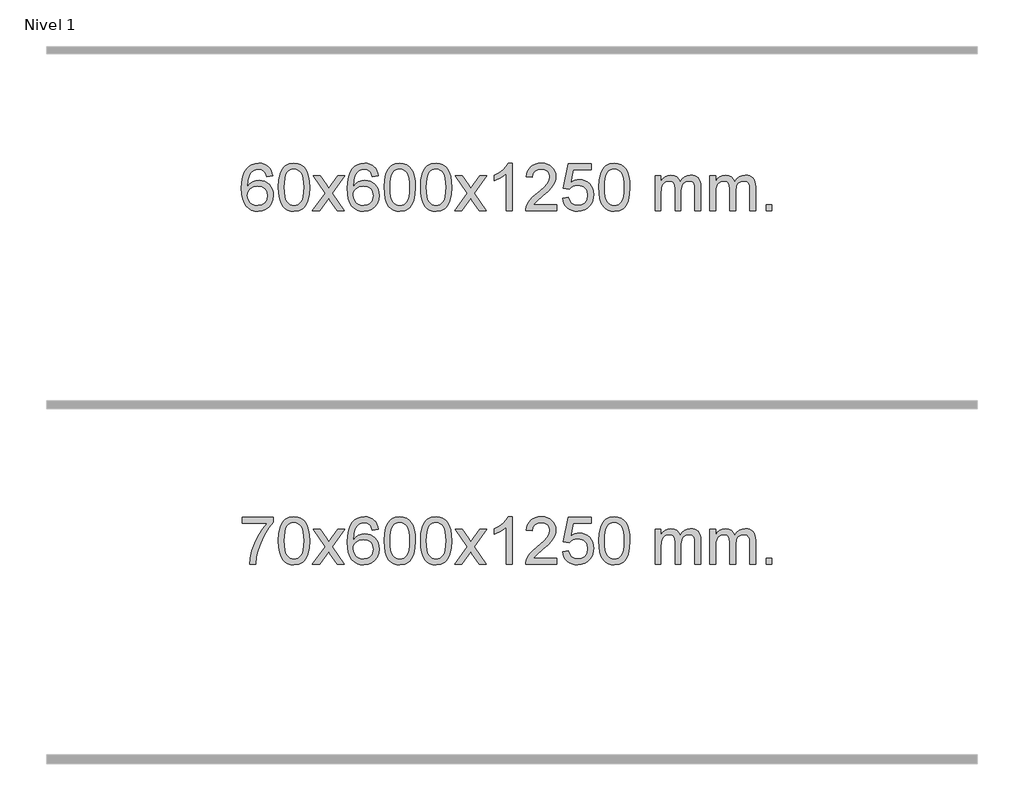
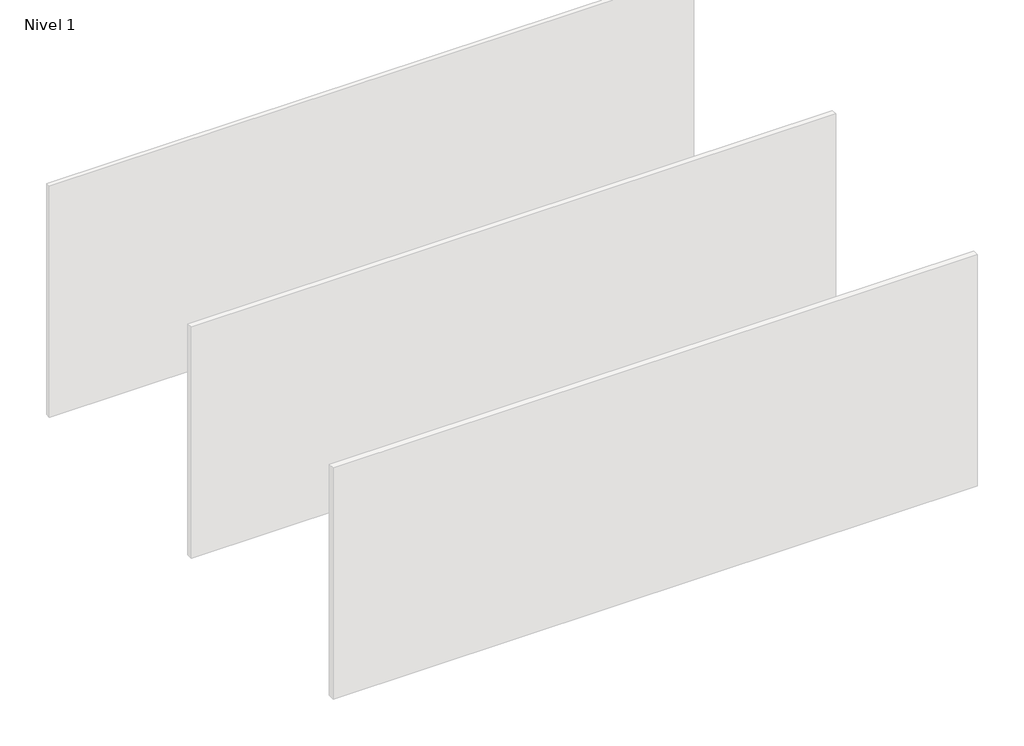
# One storey, part 3 of 4: 2 proxies.
"""IFC4 building model written with IfcOpenShell, lengths in millimetres."""

from ifc_helpers import new_model, si_unit, origin, origin_with_axes, place, context, project, spatial, polyline, outline, extrude, element, save

model = new_model("IFC4")

# Units and contexts
model_context = context("Model", 3, world=origin())
ifc_project = project(units=[si_unit("LENGTHUNIT", "METRE", prefix="MILLI")], contexts=[model_context])

# Site, building, storey
site = spatial("IfcSite", under=ifc_project)
building = spatial("IfcBuilding", under=site)
storey = spatial("IfcBuildingStorey", under=building, Name="Nivel 1", Elevation=0.0)

# Proxies
placement = place(None, origin())
element("IfcBuildingElementProxy", 1, Name="Texto de modelo 1", ObjectType="Texto de modelo 1", at=placement, inside=storey, context=model_context, shape_type="SweptSolid", body=[
    extrude(outline(polyline([(-4613.4242712, -3100.4890419), (-4663.6524262, -3106.7675613), (-4671.7458301, -3081.874213), (-4682.6841881, -3064.8780648), (-4705.4683463, -3049.2062918), (-4733.0104451, -3043.9823675), (-4756.358689, -3047.0235253), (-4778.3335069, -3056.1469988), (-4797.2058532, -3075.3627017), (-4812.6201088, -3101.8134171), (-4823.0311693, -3139.227016), (-4826.8939302, -3191.3313693), (-4806.7462596, -3167.8237098), (-4782.600938, -3151.2567573), (-4755.806866, -3141.434308), (-4727.7129443, -3138.1601582), (-4703.5798854, -3140.398107), (-4681.310762, -3147.1119534), (-4660.905574, -3158.3016975), (-4642.3643214, -3173.9673391), (-4626.9561972, -3193.1769106), (-4615.9503942, -3214.9984443), (-4609.3469124, -3239.4319401), (-4607.1457518, -3266.4773982), (-4611.2905556, -3302.4439945), (-4623.724967, -3335.786366), (-4643.4189165, -3364.0642287), (-4669.3423344, -3384.8372987), (-4700.3179984, -3397.602804), (-4735.1686861, -3401.8579724), (-4765.1112148, -3399.0375437), (-4792.1536071, -3390.5762579), (-4816.2958631, -3376.4741147), (-4837.5379826, -3356.7311143), (-4854.8560275, -3330.5133908), (-4867.2260596, -3296.9870783), (-4874.6480789, -3256.1521768), (-4877.1220853, -3208.0086864), (-4874.3752331, -3154.0342663), (-4866.1346764, -3107.9693092), (-4852.4004152, -3069.8138149), (-4833.1724496, -3039.5677835), (-4812.3319346, -3019.5243462), (-4788.1682189, -3005.2076052), (-4760.6813025, -2996.6175606), (-4729.8711854, -2993.7542124), (-4706.7375392, -2995.5261773), (-4685.7989223, -3000.8420722), (-4667.0553347, -3009.7018969), (-4650.5067763, -3022.1056515), (-4636.6008369, -3037.6364031), (-4625.7851062, -3055.8772186), (-4618.0595843, -3076.8280983), (-4613.4242712, -3100.4890419)]), holes=[polyline([(-4826.8939302, -3265.6925832), (-4823.9876625, -3287.9494439), (-4815.2688592, -3309.2007605), (-4801.7308018, -3327.472233), (-4784.3667716, -3340.7895612), (-4763.4097606, -3348.9197533), (-4739.0927607, -3351.6298173), (-4705.9465929, -3346.0134855), (-4692.0314565, -3338.9930708), (-4679.888285, -3329.1644901), (-4670.0382445, -3316.9262824), (-4663.0025014, -3302.6769865), (-4657.3739068, -3268.1451299), (-4662.928925, -3234.9989621), (-4669.8726976, -3221.3781312), (-4679.5939794, -3209.725469), (-4691.7739391, -3200.3904634), (-4706.0937457, -3193.7226022), (-4741.1528999, -3188.3883133), (-4774.2500167, -3193.7226022), (-4801.9270055, -3209.725469), (-4812.8500351, -3221.2248471), (-4820.652199, -3234.3858254), (-4825.3334974, -3249.2084042), (-4826.8939302, -3265.6925832)])]), origin_with_axes(), (0.0, 0.0, 1.0), 10.0),
    extrude(outline(polyline([(-4563.1961161, -3197.9041943), (-4559.5050334, -3133.5861588), (-4548.4317853, -3082.2911459), (-4530.0867365, -3043.2343407), (-4518.2286735, -3028.0009605), (-4504.5802515, -3015.6309284), (-4489.0954852, -3006.0598651), (-4471.7283893, -2999.2233914), (-4431.347209, -2993.7542124), (-4400.3960705, -2996.991574), (-4372.6822935, -3006.7036586), (-4349.5057278, -3022.5103217), (-4332.1662231, -3044.0314184), (-4319.0696241, -3071.0830078), (-4308.6217754, -3103.4811488), (-4301.7791703, -3144.6226186), (-4299.4983019, -3197.9041943), (-4303.1525964, -3261.8543477), (-4314.1154799, -3313.0267333), (-4332.3501641, -3352.1203266), (-4344.1806359, -3367.3996922), (-4357.8198609, -3379.8341036), (-4373.3230213, -3389.4695462), (-4390.7452995, -3396.3520052), (-4431.347209, -3401.8579724), (-4459.011935, -3399.4667394), (-4483.5374014, -3392.2930405), (-4504.923608, -3380.3368757), (-4523.170555, -3363.5982449), (-4540.681738, -3333.3399508), (-4553.1897258, -3295.6381776), (-4560.6945185, -3250.4929255), (-4563.1961161, -3197.9041943)]), holes=[polyline([(-4512.967961, -3197.8060924), (-4511.496433, -3241.4706195), (-4507.0818491, -3276.8148822), (-4499.7242092, -3303.8388804), (-4489.4235133, -3322.5426142), (-4476.9645764, -3335.2682656), (-4463.1322134, -3344.3580165), (-4447.9264243, -3349.8118671), (-4431.347209, -3351.6298173), (-4414.7679938, -3349.8057357), (-4399.5622046, -3344.3334911), (-4385.7298416, -3335.2130833), (-4373.2709047, -3322.4445124), (-4362.9702088, -3303.7101217), (-4355.6125689, -3276.6922549), (-4351.197985, -3241.3909118), (-4349.726457, -3197.8060924), (-4351.1489341, -3155.2973278), (-4355.4163652, -3120.5753989), (-4362.5287504, -3093.6403055), (-4372.4860898, -3074.4920476), (-4384.7365602, -3061.1440625), (-4398.7283388, -3051.6097875), (-4414.4614254, -3045.8892225), (-4431.9358202, -3043.9823675), (-4448.4291963, -3045.6623619), (-4463.3774681, -3050.7023452), (-4476.7806354, -3059.1023175), (-4488.6386984, -3070.8622786), (-4499.2827508, -3091.708925), (-4506.8856454, -3119.8151094), (-4511.4473821, -3155.1808319), (-4512.967961, -3197.8060924)])]), origin_with_axes(), (0.0, 0.0, 1.0), 10.0),
    extrude(outline(polyline([(-4274.3842244, -3395.579453), (-4167.0607837, -3247.2494325), (-4268.105705, -3100.4890419), (-4207.6749559, -3100.4890419), (-4158.9183288, -3171.122385), (-4136.1586961, -3204.4770192), (-4116.4402211, -3177.2047007), (-4060.9145653, -3100.4890419), (-4000.4838163, -3100.4890419), (-4106.6300346, -3247.2494325), (-4004.4078909, -3395.579453), (-4064.8386399, -3395.579453), (-4126.3485095, -3306.4048574), (-4137.6302241, -3290.1199477), (-4213.9534753, -3395.579453), (-4274.3842244, -3395.579453)])), origin_with_axes(), (0.0, 0.0, 1.0), 10.0),
    extrude(outline(polyline([(-3715.5959992, -3100.4890419), (-3765.8241543, -3106.7675613), (-3773.9175582, -3081.874213), (-3784.8559162, -3064.8780648), (-3807.6400744, -3049.2062918), (-3835.1821731, -3043.9823675), (-3858.5304171, -3047.0235253), (-3880.5052349, -3056.1469988), (-3899.3775813, -3075.3627017), (-3914.7918368, -3101.8134171), (-3925.2028973, -3139.227016), (-3929.0656583, -3191.3313693), (-3908.9179877, -3167.8237098), (-3884.772666, -3151.2567573), (-3857.9785941, -3141.434308), (-3829.8846724, -3138.1601582), (-3805.7516135, -3140.398107), (-3783.48249, -3147.1119534), (-3763.077302, -3158.3016975), (-3744.5360495, -3173.9673391), (-3729.1279252, -3193.1769106), (-3718.1221222, -3214.9984443), (-3711.5186404, -3239.4319401), (-3709.3174798, -3266.4773982), (-3713.4622836, -3302.4439945), (-3725.8966951, -3335.786366), (-3745.5906445, -3364.0642287), (-3771.5140625, -3384.8372987), (-3802.4897265, -3397.602804), (-3837.3404141, -3401.8579724), (-3867.2829429, -3399.0375437), (-3894.3253352, -3390.5762579), (-3918.4675911, -3376.4741147), (-3939.7097107, -3356.7311143), (-3957.0277556, -3330.5133908), (-3969.3977877, -3296.9870783), (-3976.8198069, -3256.1521768), (-3979.2938133, -3208.0086864), (-3976.5469611, -3154.0342663), (-3968.3064044, -3107.9693092), (-3954.5721433, -3069.8138149), (-3935.3441776, -3039.5677835), (-3914.5036626, -3019.5243462), (-3890.3399469, -3005.2076052), (-3862.8530305, -2996.6175606), (-3832.0429134, -2993.7542124), (-3808.9092673, -2995.5261773), (-3787.9706504, -3000.8420722), (-3769.2270627, -3009.7018969), (-3752.6785043, -3022.1056515), (-3738.7725649, -3037.6364031), (-3727.9568342, -3055.8772186), (-3720.2313123, -3076.8280983), (-3715.5959992, -3100.4890419)]), holes=[polyline([(-3929.0656583, -3265.6925832), (-3926.1593905, -3287.9494439), (-3917.4405872, -3309.2007605), (-3903.9025298, -3327.472233), (-3886.5384996, -3340.7895612), (-3865.5814886, -3348.9197533), (-3841.2644887, -3351.6298173), (-3808.118321, -3346.0134855), (-3794.2031845, -3338.9930708), (-3782.060013, -3329.1644901), (-3772.2099726, -3316.9262824), (-3765.1742294, -3302.6769865), (-3759.5456349, -3268.1451299), (-3765.100653, -3234.9989621), (-3772.0444257, -3221.3781312), (-3781.7657074, -3209.725469), (-3793.9456671, -3200.3904634), (-3808.2654738, -3193.7226022), (-3843.3246279, -3188.3883133), (-3876.4217448, -3193.7226022), (-3904.0987335, -3209.725469), (-3915.0217631, -3221.2248471), (-3922.8239271, -3234.3858254), (-3927.5052255, -3249.2084042), (-3929.0656583, -3265.6925832)])]), origin_with_axes(), (0.0, 0.0, 1.0), 10.0),
    extrude(outline(polyline([(-3665.3678441, -3197.9041943), (-3661.6767614, -3133.5861588), (-3650.6035134, -3082.2911459), (-3632.2584646, -3043.2343407), (-3620.4004016, -3028.0009605), (-3606.7519796, -3015.6309284), (-3591.2672132, -3006.0598651), (-3573.9001174, -2999.2233914), (-3533.518937, -2993.7542124), (-3502.5677985, -2996.991574), (-3474.8540216, -3006.7036586), (-3451.6774559, -3022.5103217), (-3434.3379511, -3044.0314184), (-3421.2413521, -3071.0830078), (-3410.7935035, -3103.4811488), (-3403.9508983, -3144.6226186), (-3401.67003, -3197.9041943), (-3405.3243245, -3261.8543477), (-3416.2872079, -3313.0267333), (-3434.5218921, -3352.1203266), (-3446.352364, -3367.3996922), (-3459.9915889, -3379.8341036), (-3475.4947494, -3389.4695462), (-3492.9170275, -3396.3520052), (-3533.518937, -3401.8579724), (-3561.1836631, -3399.4667394), (-3585.7091294, -3392.2930405), (-3607.0953361, -3380.3368757), (-3625.342283, -3363.5982449), (-3642.853466, -3333.3399508), (-3655.3614539, -3295.6381776), (-3662.8662466, -3250.4929255), (-3665.3678441, -3197.9041943)]), holes=[polyline([(-3615.139689, -3197.8060924), (-3613.6681611, -3241.4706195), (-3609.2535771, -3276.8148822), (-3601.8959372, -3303.8388804), (-3591.5952414, -3322.5426142), (-3579.1363044, -3335.2682656), (-3565.3039414, -3344.3580165), (-3550.0981523, -3349.8118671), (-3533.518937, -3351.6298173), (-3516.9397218, -3349.8057357), (-3501.7339327, -3344.3334911), (-3487.9015696, -3335.2130833), (-3475.4426327, -3322.4445124), (-3465.1419369, -3303.7101217), (-3457.784297, -3276.6922549), (-3453.369713, -3241.3909118), (-3451.8981851, -3197.8060924), (-3453.3206621, -3155.2973278), (-3457.5880932, -3120.5753989), (-3464.7004785, -3093.6403055), (-3474.6578178, -3074.4920476), (-3486.9082883, -3061.1440625), (-3500.9000668, -3051.6097875), (-3516.6331535, -3045.8892225), (-3534.1075482, -3043.9823675), (-3550.6009244, -3045.6623619), (-3565.5491961, -3050.7023452), (-3578.9523635, -3059.1023175), (-3590.8104264, -3070.8622786), (-3601.4544788, -3091.708925), (-3609.0573734, -3119.8151094), (-3613.6191101, -3155.1808319), (-3615.139689, -3197.8060924)])]), origin_with_axes(), (0.0, 0.0, 1.0), 10.0),
    extrude(outline(polyline([(-3357.7203943, -3197.9041943), (-3354.0293116, -3133.5861588), (-3342.9560635, -3082.2911459), (-3324.6110147, -3043.2343407), (-3312.7529517, -3028.0009605), (-3299.1045297, -3015.6309284), (-3283.6197634, -3006.0598651), (-3266.2526676, -2999.2233914), (-3225.8714872, -2993.7542124), (-3194.9203487, -2996.991574), (-3167.2065717, -3006.7036586), (-3144.030006, -3022.5103217), (-3126.6905013, -3044.0314184), (-3113.5939023, -3071.0830078), (-3103.1460536, -3103.4811488), (-3096.3034485, -3144.6226186), (-3094.0225801, -3197.9041943), (-3097.6768746, -3261.8543477), (-3108.6397581, -3313.0267333), (-3126.8744423, -3352.1203266), (-3138.7049141, -3367.3996922), (-3152.3441391, -3379.8341036), (-3167.8472995, -3389.4695462), (-3185.2695777, -3396.3520052), (-3225.8714872, -3401.8579724), (-3253.5362133, -3399.4667394), (-3278.0616796, -3392.2930405), (-3299.4478862, -3380.3368757), (-3317.6948332, -3363.5982449), (-3335.2060162, -3333.3399508), (-3347.714004, -3295.6381776), (-3355.2187967, -3250.4929255), (-3357.7203943, -3197.9041943)]), holes=[polyline([(-3307.4922392, -3197.8060924), (-3306.0207112, -3241.4706195), (-3301.6061273, -3276.8148822), (-3294.2484874, -3303.8388804), (-3283.9477915, -3322.5426142), (-3271.4888546, -3335.2682656), (-3257.6564916, -3344.3580165), (-3242.4507025, -3349.8118671), (-3225.8714872, -3351.6298173), (-3209.292272, -3349.8057357), (-3194.0864828, -3344.3334911), (-3180.2541198, -3335.2130833), (-3167.7951829, -3322.4445124), (-3157.494487, -3303.7101217), (-3150.1368471, -3276.6922549), (-3145.7222632, -3241.3909118), (-3144.2507352, -3197.8060924), (-3145.6732123, -3155.2973278), (-3149.9406434, -3120.5753989), (-3157.0530287, -3093.6403055), (-3167.010368, -3074.4920476), (-3179.2608384, -3061.1440625), (-3193.252617, -3051.6097875), (-3208.9857036, -3045.8892225), (-3226.4600984, -3043.9823675), (-3242.9534745, -3045.6623619), (-3257.9017463, -3050.7023452), (-3271.3049136, -3059.1023175), (-3283.1629766, -3070.8622786), (-3293.807029, -3091.708925), (-3301.4099236, -3119.8151094), (-3305.9716603, -3155.1808319), (-3307.4922392, -3197.8060924)])]), origin_with_axes(), (0.0, 0.0, 1.0), 10.0),
    extrude(outline(polyline([(-3068.9085026, -3395.579453), (-2961.5850619, -3247.2494325), (-3062.6299832, -3100.4890419), (-3002.1992341, -3100.4890419), (-2953.4426071, -3171.122385), (-2930.6829743, -3204.4770192), (-2910.9644993, -3177.2047007), (-2855.4388435, -3100.4890419), (-2795.0080945, -3100.4890419), (-2901.1543128, -3247.2494325), (-2798.9321691, -3395.579453), (-2859.3629182, -3395.579453), (-2920.8727877, -3306.4048574), (-2932.1545023, -3290.1199477), (-3008.4777535, -3395.579453), (-3068.9085026, -3395.579453)])), origin_with_axes(), (0.0, 0.0, 1.0), 10.0),
    extrude(outline(polyline([(-2579.1839906, -3395.579453), (-2629.4121457, -3395.579453), (-2629.4121457, -3082.4382987), (-2650.3814194, -3099.3976587), (-2676.9915504, -3116.3324932), (-2729.8684559, -3141.6918254), (-2729.8684559, -3094.2105225), (-2690.4192432, -3072.7507395), (-2656.2430059, -3047.219729), (-2629.3017811, -3020.0700378), (-2611.5576062, -2993.7542124), (-2579.1839906, -2993.7542124), (-2579.1839906, -3395.579453)])), origin_with_axes(), (0.0, 0.0, 1.0), 10.0),
    extrude(outline(polyline([(-2202.4728276, -3345.3512979), (-2202.4728276, -3395.579453), (-2466.1706417, -3395.579453), (-2465.0669957, -3377.8965918), (-2460.7750391, -3360.9494945), (-2448.3896786, -3333.8856424), (-2430.265359, -3307.6311307), (-2404.0476355, -3280.1503456), (-2367.3820633, -3249.4076736), (-2313.1807826, -3201.2641831), (-2280.6600143, -3165.7267824), (-2264.3996301, -3136.884834), (-2258.979502, -3108.8277005), (-2264.0930618, -3083.6768347), (-2279.433741, -3062.7688747), (-2303.0149768, -3048.6789943), (-2332.8502067, -3043.9823675), (-2364.1814899, -3048.5686297), (-2388.5230153, -3062.3274163), (-2404.2315765, -3084.1796068), (-2409.6639672, -3113.0460807), (-2459.8921223, -3106.7675613), (-2455.5725746, -3080.838012), (-2447.7152283, -3058.1826125), (-2436.3200835, -3038.8013627), (-2421.3871402, -3022.6942627), (-2403.2597548, -3010.0329907), (-2382.2812841, -3000.989225), (-2358.4517278, -2995.5629655), (-2331.7710861, -2993.7542124), (-2304.8513211, -2995.7653006), (-2280.8930062, -3001.7985654), (-2259.8961413, -3011.8540066), (-2241.8607265, -3025.9316242), (-2227.375373, -3042.9890861), (-2217.0286918, -3061.9840598), (-2210.8206832, -3082.9165453), (-2208.7513469, -3105.7865427), (-2210.9831644, -3129.8092369), (-2217.6786167, -3153.4149983), (-2229.5612051, -3177.4254299), (-2247.354431, -3202.6621347), (-2275.7181328, -3232.7916701), (-2319.3121492, -3271.4805933), (-2377.0941479, -3319.795762), (-2399.7556788, -3345.3512979), (-2202.4728276, -3345.3512979)])), origin_with_axes(), (0.0, 0.0, 1.0), 10.0),
    extrude(outline(polyline([(-2152.2446725, -3288.8446235), (-2102.0165174, -3282.5661041), (-2092.7949421, -3312.7201649), (-2076.7062361, -3334.3148381), (-2053.823976, -3347.3010725), (-2024.2217382, -3351.6298173), (-2005.0918744, -3350.1245668), (-1988.2183536, -3345.6088153), (-1973.6011756, -3338.0825628), (-1961.2403406, -3327.5458094), (-1951.41176, -3314.519721), (-1944.3913452, -3299.5254641), (-1938.7750134, -3263.6324441), (-1944.035726, -3229.8363514), (-1950.6116166, -3215.9181493), (-1959.8178635, -3203.9865099), (-1971.6851236, -3194.4154467), (-1986.2440535, -3187.5789729), (-2023.4369232, -3182.1097939), (-2047.8029741, -3184.2925604), (-2067.5337117, -3190.8408599), (-2083.2913239, -3200.8717757), (-2095.737998, -3213.5023908), (-2145.9661531, -3207.2238715), (-2102.0165174, -3000.0327318), (-1907.3824165, -3000.0327318), (-1907.3824165, -3050.2608869), (-2061.4023451, -3050.2608869), (-2082.8866537, -3160.919791), (-2065.1608729, -3148.2155994), (-2047.0058964, -3139.1411769), (-2028.4217243, -3133.6965234), (-2009.4083565, -3131.8816388), (-1984.9472695, -3134.1318504), (-1962.4788766, -3140.882485), (-1942.0031779, -3152.1335427), (-1923.5201734, -3167.8850234), (-1908.219348, -3187.1743027), (-1897.2901871, -3209.038756), (-1890.7326905, -3233.4783832), (-1888.5468583, -3260.4931844), (-1890.515027, -3286.5147042), (-1896.419533, -3310.7213394), (-1906.2603764, -3333.1130902), (-1920.0375571, -3353.6899565), (-1940.908729, -3374.7634634), (-1965.2625171, -3389.8159684), (-1993.0989214, -3398.8474714), (-2024.4179419, -3401.8579724), (-2050.3382941, -3399.9235262), (-2073.7509175, -3394.1201877), (-2094.6558118, -3384.447957), (-2113.0529773, -3370.9068338), (-2128.359934, -3354.1712688), (-2139.9942021, -3334.915712), (-2147.9557816, -3313.1401636), (-2152.2446725, -3288.8446235)])), origin_with_axes(), (0.0, 0.0, 1.0), 10.0),
    extrude(outline(polyline([(-1844.5972227, -3197.9041943), (-1840.90614, -3133.5861588), (-1829.8328919, -3082.2911459), (-1811.4878431, -3043.2343407), (-1799.6297801, -3028.0009605), (-1785.9813581, -3015.6309284), (-1770.4965918, -3006.0598651), (-1753.1294959, -2999.2233914), (-1712.7483156, -2993.7542124), (-1681.7971771, -2996.991574), (-1654.0834001, -3006.7036586), (-1630.9068344, -3022.5103217), (-1613.5673297, -3044.0314184), (-1600.4707307, -3071.0830078), (-1590.022882, -3103.4811488), (-1583.1802769, -3144.6226186), (-1580.8994085, -3197.9041943), (-1584.553703, -3261.8543477), (-1595.5165865, -3313.0267333), (-1613.7512707, -3352.1203266), (-1625.5817425, -3367.3996922), (-1639.2209675, -3379.8341036), (-1654.7241279, -3389.4695462), (-1672.1464061, -3396.3520052), (-1712.7483156, -3401.8579724), (-1740.4130416, -3399.4667394), (-1764.938508, -3392.2930405), (-1786.3247146, -3380.3368757), (-1804.5716616, -3363.5982449), (-1822.0828446, -3333.3399508), (-1834.5908324, -3295.6381776), (-1842.0956251, -3250.4929255), (-1844.5972227, -3197.9041943)]), holes=[polyline([(-1794.3690676, -3197.8060924), (-1792.8975396, -3241.4706195), (-1788.4829557, -3276.8148822), (-1781.1253158, -3303.8388804), (-1770.8246199, -3322.5426142), (-1758.365683, -3335.2682656), (-1744.53332, -3344.3580165), (-1729.3275308, -3349.8118671), (-1712.7483156, -3351.6298173), (-1696.1691003, -3349.8057357), (-1680.9633112, -3344.3334911), (-1667.1309482, -3335.2130833), (-1654.6720113, -3322.4445124), (-1644.3713154, -3303.7101217), (-1637.0136755, -3276.6922549), (-1632.5990916, -3241.3909118), (-1631.1275636, -3197.8060924), (-1632.5500406, -3155.2973278), (-1636.8174718, -3120.5753989), (-1643.929857, -3093.6403055), (-1653.8871964, -3074.4920476), (-1666.1376668, -3061.1440625), (-1680.1294453, -3051.6097875), (-1695.862532, -3045.8892225), (-1713.3369268, -3043.9823675), (-1729.8303029, -3045.6623619), (-1744.7785746, -3050.7023452), (-1758.181742, -3059.1023175), (-1770.039805, -3070.8622786), (-1780.6838574, -3091.708925), (-1788.2867519, -3119.8151094), (-1792.8484887, -3155.1808319), (-1794.3690676, -3197.8060924)])]), origin_with_axes(), (0.0, 0.0, 1.0), 10.0),
    extrude(outline(polyline([(-1367.4297494, -3395.579453), (-1367.4297494, -3100.4890419), (-1317.2015944, -3100.4890419), (-1317.2015944, -3149.0494653), (-1302.0939071, -3126.7435537), (-1282.6697378, -3109.2691589), (-1259.5912739, -3097.9751816), (-1233.5207032, -3094.2105225), (-1205.586197, -3098.048758), (-1183.1944463, -3109.5634645), (-1166.4680782, -3127.9943524), (-1155.5297202, -3152.5811324), (-1137.2214596, -3127.0439906), (-1116.338025, -3108.803175), (-1092.8794164, -3097.8586857), (-1066.8456339, -3094.2105225), (-1046.7378172, -3095.7280358), (-1029.0886785, -3100.2805755), (-1013.8982178, -3107.8681416), (-1001.166435, -3118.4907342), (-991.1017968, -3132.2709806), (-983.9127695, -3149.3315082), (-979.5993531, -3169.6723168), (-978.1615476, -3193.2934066), (-978.1615476, -3395.579453), (-1028.3897027, -3395.579453), (-1028.3897027, -3214.875817), (-1029.5546623, -3189.8230531), (-1033.0495413, -3172.9372695), (-1039.5978408, -3161.3735121), (-1049.9230621, -3152.2868268), (-1063.2036022, -3146.4007149), (-1078.6178578, -3144.4386776), (-1105.8288627, -3149.4663982), (-1128.012147, -3164.54956), (-1136.61752, -3176.1194488), (-1142.764215, -3190.7182326), (-1147.681571, -3229.0024856), (-1147.681571, -3395.579453), (-1197.9097261, -3395.579453), (-1197.9097261, -3209.2840106), (-1200.8159938, -3180.8835206), (-1209.5347971, -3160.6254854), (-1224.8754763, -3148.4853796), (-1247.6473718, -3144.4386776), (-1266.9979648, -3147.1364789), (-1284.8279788, -3155.2298828), (-1299.5432586, -3168.5226856), (-1309.5496489, -3186.8186835), (-1315.288608, -3212.2025411), (-1317.2015944, -3246.7589232), (-1317.2015944, -3395.579453), (-1367.4297494, -3395.579453)])), origin_with_axes(), (0.0, 0.0, 1.0), 10.0),
    extrude(outline(polyline([(-902.819315, -3395.579453), (-902.819315, -3100.4890419), (-852.5911599, -3100.4890419), (-852.5911599, -3149.0494653), (-837.4834727, -3126.7435537), (-818.0593033, -3109.2691589), (-794.9808395, -3097.9751816), (-768.9102688, -3094.2105225), (-740.9757626, -3098.048758), (-718.5840118, -3109.5634645), (-701.8576438, -3127.9943524), (-690.9192858, -3152.5811324), (-672.6110252, -3127.0439906), (-651.7275906, -3108.803175), (-628.268982, -3097.8586857), (-602.2351995, -3094.2105225), (-582.1273828, -3095.7280358), (-564.478244, -3100.2805755), (-549.2877833, -3107.8681416), (-536.5560006, -3118.4907342), (-526.4913624, -3132.2709806), (-519.302335, -3149.3315082), (-514.9889186, -3169.6723168), (-513.5511132, -3193.2934066), (-513.5511132, -3395.579453), (-563.7792682, -3395.579453), (-563.7792682, -3214.875817), (-564.9442279, -3189.8230531), (-568.4391069, -3172.9372695), (-574.9874064, -3161.3735121), (-585.3126277, -3152.2868268), (-598.5931677, -3146.4007149), (-614.0074233, -3144.4386776), (-641.2184282, -3149.4663982), (-663.4017125, -3164.54956), (-672.0070855, -3176.1194488), (-678.1537806, -3190.7182326), (-683.0711366, -3229.0024856), (-683.0711366, -3395.579453), (-733.2992916, -3395.579453), (-733.2992916, -3209.2840106), (-736.2055594, -3180.8835206), (-744.9243627, -3160.6254854), (-760.2650419, -3148.4853796), (-783.0369374, -3144.4386776), (-802.3875303, -3147.1364789), (-820.2175444, -3155.2298828), (-834.9328242, -3168.5226856), (-844.9392144, -3186.8186835), (-850.6781736, -3212.2025411), (-852.5911599, -3246.7589232), (-852.5911599, -3395.579453), (-902.819315, -3395.579453)])), origin_with_axes(), (0.0, 0.0, 1.0), 10.0),
    extrude(outline(polyline([(-425.6518418, -3395.579453), (-425.6518418, -3345.3512979), (-375.4236867, -3345.3512979), (-375.4236867, -3395.579453), (-425.6518418, -3395.579453)])), origin_with_axes(), (0.0, 0.0, 1.0), 10.0),
])
element("IfcBuildingElementProxy", 2, Name="Texto de modelo 1", ObjectType="Texto de modelo 1", at=placement, inside=storey, context=model_context, shape_type="SweptSolid", body=[
    extrude(outline(polyline([(-4870.8435659, -6050.2608869), (-4870.8435659, -6000.0327318), (-4607.1457518, -6000.0327318), (-4607.1457518, -6040.646904), (-4644.7310289, -6088.214046), (-4681.9484241, -6148.7061088), (-4714.7757608, -6216.6048623), (-4739.1908626, -6286.3920768), (-4751.1592902, -6338.6067947), (-4757.830217, -6395.579453), (-4808.0583721, -6395.579453), (-4802.6259813, -6343.8061935), (-4788.0946425, -6282.2717985), (-4764.8567631, -6217.0463207), (-4733.3047507, -6154.1998132), (-4696.4675002, -6097.3865704), (-4657.3739068, -6050.2608869), (-4870.8435659, -6050.2608869)])), origin_with_axes(), (0.0, 0.0, 1.0), 10.0),
    extrude(outline(polyline([(-4563.1961161, -6197.9041943), (-4559.5050334, -6133.5861588), (-4548.4317853, -6082.2911459), (-4530.0867365, -6043.2343407), (-4518.2286735, -6028.0009605), (-4504.5802515, -6015.6309284), (-4489.0954852, -6006.0598651), (-4471.7283893, -5999.2233914), (-4431.347209, -5993.7542124), (-4400.3960705, -5996.991574), (-4372.6822935, -6006.7036586), (-4349.5057278, -6022.5103217), (-4332.1662231, -6044.0314184), (-4319.0696241, -6071.0830078), (-4308.6217754, -6103.4811488), (-4301.7791703, -6144.6226186), (-4299.4983019, -6197.9041943), (-4303.1525964, -6261.8543477), (-4314.1154799, -6313.0267333), (-4332.3501641, -6352.1203266), (-4344.1806359, -6367.3996922), (-4357.8198609, -6379.8341036), (-4373.3230213, -6389.4695462), (-4390.7452995, -6396.3520052), (-4431.347209, -6401.8579724), (-4459.011935, -6399.4667394), (-4483.5374014, -6392.2930405), (-4504.923608, -6380.3368757), (-4523.170555, -6363.5982449), (-4540.681738, -6333.3399508), (-4553.1897258, -6295.6381776), (-4560.6945185, -6250.4929255), (-4563.1961161, -6197.9041943)]), holes=[polyline([(-4512.967961, -6197.8060924), (-4511.496433, -6241.4706195), (-4507.0818491, -6276.8148822), (-4499.7242092, -6303.8388804), (-4489.4235133, -6322.5426142), (-4476.9645764, -6335.2682656), (-4463.1322134, -6344.3580165), (-4447.9264243, -6349.8118671), (-4431.347209, -6351.6298173), (-4414.7679938, -6349.8057357), (-4399.5622046, -6344.3334911), (-4385.7298416, -6335.2130833), (-4373.2709047, -6322.4445124), (-4362.9702088, -6303.7101217), (-4355.6125689, -6276.6922549), (-4351.197985, -6241.3909118), (-4349.726457, -6197.8060924), (-4351.1489341, -6155.2973278), (-4355.4163652, -6120.5753989), (-4362.5287504, -6093.6403055), (-4372.4860898, -6074.4920476), (-4384.7365602, -6061.1440625), (-4398.7283388, -6051.6097875), (-4414.4614254, -6045.8892225), (-4431.9358202, -6043.9823675), (-4448.4291963, -6045.6623619), (-4463.3774681, -6050.7023452), (-4476.7806354, -6059.1023175), (-4488.6386984, -6070.8622786), (-4499.2827508, -6091.708925), (-4506.8856454, -6119.8151094), (-4511.4473821, -6155.1808319), (-4512.967961, -6197.8060924)])]), origin_with_axes(), (0.0, 0.0, 1.0), 10.0),
    extrude(outline(polyline([(-4274.3842244, -6395.579453), (-4167.0607837, -6247.2494325), (-4268.105705, -6100.4890419), (-4207.6749559, -6100.4890419), (-4158.9183288, -6171.122385), (-4136.1586961, -6204.4770192), (-4116.4402211, -6177.2047007), (-4060.9145653, -6100.4890419), (-4000.4838163, -6100.4890419), (-4106.6300346, -6247.2494325), (-4004.4078909, -6395.579453), (-4064.8386399, -6395.579453), (-4126.3485095, -6306.4048574), (-4137.6302241, -6290.1199477), (-4213.9534753, -6395.579453), (-4274.3842244, -6395.579453)])), origin_with_axes(), (0.0, 0.0, 1.0), 10.0),
    extrude(outline(polyline([(-3715.5959992, -6100.4890419), (-3765.8241543, -6106.7675613), (-3773.9175582, -6081.874213), (-3784.8559162, -6064.8780648), (-3807.6400744, -6049.2062918), (-3835.1821731, -6043.9823675), (-3858.5304171, -6047.0235253), (-3880.5052349, -6056.1469988), (-3899.3775813, -6075.3627017), (-3914.7918368, -6101.8134171), (-3925.2028973, -6139.227016), (-3929.0656583, -6191.3313693), (-3908.9179877, -6167.8237098), (-3884.772666, -6151.2567573), (-3857.9785941, -6141.434308), (-3829.8846724, -6138.1601582), (-3805.7516135, -6140.398107), (-3783.48249, -6147.1119534), (-3763.077302, -6158.3016975), (-3744.5360495, -6173.9673391), (-3729.1279252, -6193.1769106), (-3718.1221222, -6214.9984443), (-3711.5186404, -6239.4319401), (-3709.3174798, -6266.4773982), (-3713.4622836, -6302.4439945), (-3725.8966951, -6335.786366), (-3745.5906445, -6364.0642287), (-3771.5140625, -6384.8372987), (-3802.4897265, -6397.602804), (-3837.3404141, -6401.8579724), (-3867.2829429, -6399.0375437), (-3894.3253352, -6390.5762579), (-3918.4675911, -6376.4741147), (-3939.7097107, -6356.7311143), (-3957.0277556, -6330.5133908), (-3969.3977877, -6296.9870783), (-3976.8198069, -6256.1521768), (-3979.2938133, -6208.0086864), (-3976.5469611, -6154.0342663), (-3968.3064044, -6107.9693092), (-3954.5721433, -6069.8138149), (-3935.3441776, -6039.5677835), (-3914.5036626, -6019.5243462), (-3890.3399469, -6005.2076052), (-3862.8530305, -5996.6175606), (-3832.0429134, -5993.7542124), (-3808.9092673, -5995.5261773), (-3787.9706504, -6000.8420722), (-3769.2270627, -6009.7018969), (-3752.6785043, -6022.1056515), (-3738.7725649, -6037.6364031), (-3727.9568342, -6055.8772186), (-3720.2313123, -6076.8280983), (-3715.5959992, -6100.4890419)]), holes=[polyline([(-3929.0656583, -6265.6925832), (-3926.1593905, -6287.9494439), (-3917.4405872, -6309.2007605), (-3903.9025298, -6327.472233), (-3886.5384996, -6340.7895612), (-3865.5814886, -6348.9197533), (-3841.2644887, -6351.6298173), (-3808.118321, -6346.0134855), (-3794.2031845, -6338.9930708), (-3782.060013, -6329.1644901), (-3772.2099726, -6316.9262824), (-3765.1742294, -6302.6769865), (-3759.5456349, -6268.1451299), (-3765.100653, -6234.9989621), (-3772.0444257, -6221.3781312), (-3781.7657074, -6209.725469), (-3793.9456671, -6200.3904634), (-3808.2654738, -6193.7226022), (-3843.3246279, -6188.3883133), (-3876.4217448, -6193.7226022), (-3904.0987335, -6209.725469), (-3915.0217631, -6221.2248471), (-3922.8239271, -6234.3858254), (-3927.5052255, -6249.2084042), (-3929.0656583, -6265.6925832)])]), origin_with_axes(), (0.0, 0.0, 1.0), 10.0),
    extrude(outline(polyline([(-3665.3678441, -6197.9041943), (-3661.6767614, -6133.5861588), (-3650.6035134, -6082.2911459), (-3632.2584646, -6043.2343407), (-3620.4004016, -6028.0009605), (-3606.7519796, -6015.6309284), (-3591.2672132, -6006.0598651), (-3573.9001174, -5999.2233914), (-3533.518937, -5993.7542124), (-3502.5677985, -5996.991574), (-3474.8540216, -6006.7036586), (-3451.6774559, -6022.5103217), (-3434.3379511, -6044.0314184), (-3421.2413521, -6071.0830078), (-3410.7935035, -6103.4811488), (-3403.9508983, -6144.6226186), (-3401.67003, -6197.9041943), (-3405.3243245, -6261.8543477), (-3416.2872079, -6313.0267333), (-3434.5218921, -6352.1203266), (-3446.352364, -6367.3996922), (-3459.9915889, -6379.8341036), (-3475.4947494, -6389.4695462), (-3492.9170275, -6396.3520052), (-3533.518937, -6401.8579724), (-3561.1836631, -6399.4667394), (-3585.7091294, -6392.2930405), (-3607.0953361, -6380.3368757), (-3625.342283, -6363.5982449), (-3642.853466, -6333.3399508), (-3655.3614539, -6295.6381776), (-3662.8662466, -6250.4929255), (-3665.3678441, -6197.9041943)]), holes=[polyline([(-3615.139689, -6197.8060924), (-3613.6681611, -6241.4706195), (-3609.2535771, -6276.8148822), (-3601.8959372, -6303.8388804), (-3591.5952414, -6322.5426142), (-3579.1363044, -6335.2682656), (-3565.3039414, -6344.3580165), (-3550.0981523, -6349.8118671), (-3533.518937, -6351.6298173), (-3516.9397218, -6349.8057357), (-3501.7339327, -6344.3334911), (-3487.9015696, -6335.2130833), (-3475.4426327, -6322.4445124), (-3465.1419369, -6303.7101217), (-3457.784297, -6276.6922549), (-3453.369713, -6241.3909118), (-3451.8981851, -6197.8060924), (-3453.3206621, -6155.2973278), (-3457.5880932, -6120.5753989), (-3464.7004785, -6093.6403055), (-3474.6578178, -6074.4920476), (-3486.9082883, -6061.1440625), (-3500.9000668, -6051.6097875), (-3516.6331535, -6045.8892225), (-3534.1075482, -6043.9823675), (-3550.6009244, -6045.6623619), (-3565.5491961, -6050.7023452), (-3578.9523635, -6059.1023175), (-3590.8104264, -6070.8622786), (-3601.4544788, -6091.708925), (-3609.0573734, -6119.8151094), (-3613.6191101, -6155.1808319), (-3615.139689, -6197.8060924)])]), origin_with_axes(), (0.0, 0.0, 1.0), 10.0),
    extrude(outline(polyline([(-3357.7203943, -6197.9041943), (-3354.0293116, -6133.5861588), (-3342.9560635, -6082.2911459), (-3324.6110147, -6043.2343407), (-3312.7529517, -6028.0009605), (-3299.1045297, -6015.6309284), (-3283.6197634, -6006.0598651), (-3266.2526676, -5999.2233914), (-3225.8714872, -5993.7542124), (-3194.9203487, -5996.991574), (-3167.2065717, -6006.7036586), (-3144.030006, -6022.5103217), (-3126.6905013, -6044.0314184), (-3113.5939023, -6071.0830078), (-3103.1460536, -6103.4811488), (-3096.3034485, -6144.6226186), (-3094.0225801, -6197.9041943), (-3097.6768746, -6261.8543477), (-3108.6397581, -6313.0267333), (-3126.8744423, -6352.1203266), (-3138.7049141, -6367.3996922), (-3152.3441391, -6379.8341036), (-3167.8472995, -6389.4695462), (-3185.2695777, -6396.3520052), (-3225.8714872, -6401.8579724), (-3253.5362133, -6399.4667394), (-3278.0616796, -6392.2930405), (-3299.4478862, -6380.3368757), (-3317.6948332, -6363.5982449), (-3335.2060162, -6333.3399508), (-3347.714004, -6295.6381776), (-3355.2187967, -6250.4929255), (-3357.7203943, -6197.9041943)]), holes=[polyline([(-3307.4922392, -6197.8060924), (-3306.0207112, -6241.4706195), (-3301.6061273, -6276.8148822), (-3294.2484874, -6303.8388804), (-3283.9477915, -6322.5426142), (-3271.4888546, -6335.2682656), (-3257.6564916, -6344.3580165), (-3242.4507025, -6349.8118671), (-3225.8714872, -6351.6298173), (-3209.292272, -6349.8057357), (-3194.0864828, -6344.3334911), (-3180.2541198, -6335.2130833), (-3167.7951829, -6322.4445124), (-3157.494487, -6303.7101217), (-3150.1368471, -6276.6922549), (-3145.7222632, -6241.3909118), (-3144.2507352, -6197.8060924), (-3145.6732123, -6155.2973278), (-3149.9406434, -6120.5753989), (-3157.0530287, -6093.6403055), (-3167.010368, -6074.4920476), (-3179.2608384, -6061.1440625), (-3193.252617, -6051.6097875), (-3208.9857036, -6045.8892225), (-3226.4600984, -6043.9823675), (-3242.9534745, -6045.6623619), (-3257.9017463, -6050.7023452), (-3271.3049136, -6059.1023175), (-3283.1629766, -6070.8622786), (-3293.807029, -6091.708925), (-3301.4099236, -6119.8151094), (-3305.9716603, -6155.1808319), (-3307.4922392, -6197.8060924)])]), origin_with_axes(), (0.0, 0.0, 1.0), 10.0),
    extrude(outline(polyline([(-3068.9085026, -6395.579453), (-2961.5850619, -6247.2494325), (-3062.6299832, -6100.4890419), (-3002.1992341, -6100.4890419), (-2953.4426071, -6171.122385), (-2930.6829743, -6204.4770192), (-2910.9644993, -6177.2047007), (-2855.4388435, -6100.4890419), (-2795.0080945, -6100.4890419), (-2901.1543128, -6247.2494325), (-2798.9321691, -6395.579453), (-2859.3629182, -6395.579453), (-2920.8727877, -6306.4048574), (-2932.1545023, -6290.1199477), (-3008.4777535, -6395.579453), (-3068.9085026, -6395.579453)])), origin_with_axes(), (0.0, 0.0, 1.0), 10.0),
    extrude(outline(polyline([(-2579.1839906, -6395.579453), (-2629.4121457, -6395.579453), (-2629.4121457, -6082.4382987), (-2650.3814194, -6099.3976587), (-2676.9915504, -6116.3324932), (-2729.8684559, -6141.6918254), (-2729.8684559, -6094.2105225), (-2690.4192432, -6072.7507395), (-2656.2430059, -6047.219729), (-2629.3017811, -6020.0700378), (-2611.5576062, -5993.7542124), (-2579.1839906, -5993.7542124), (-2579.1839906, -6395.579453)])), origin_with_axes(), (0.0, 0.0, 1.0), 10.0),
    extrude(outline(polyline([(-2202.4728276, -6345.3512979), (-2202.4728276, -6395.579453), (-2466.1706417, -6395.579453), (-2465.0669957, -6377.8965918), (-2460.7750391, -6360.9494945), (-2448.3896786, -6333.8856424), (-2430.265359, -6307.6311307), (-2404.0476355, -6280.1503456), (-2367.3820633, -6249.4076736), (-2313.1807826, -6201.2641831), (-2280.6600143, -6165.7267824), (-2264.3996301, -6136.884834), (-2258.979502, -6108.8277005), (-2264.0930618, -6083.6768347), (-2279.433741, -6062.7688747), (-2303.0149768, -6048.6789943), (-2332.8502067, -6043.9823675), (-2364.1814899, -6048.5686297), (-2388.5230153, -6062.3274163), (-2404.2315765, -6084.1796068), (-2409.6639672, -6113.0460807), (-2459.8921223, -6106.7675613), (-2455.5725746, -6080.838012), (-2447.7152283, -6058.1826125), (-2436.3200835, -6038.8013627), (-2421.3871402, -6022.6942627), (-2403.2597548, -6010.0329907), (-2382.2812841, -6000.989225), (-2358.4517278, -5995.5629655), (-2331.7710861, -5993.7542124), (-2304.8513211, -5995.7653006), (-2280.8930062, -6001.7985654), (-2259.8961413, -6011.8540066), (-2241.8607265, -6025.9316242), (-2227.375373, -6042.9890861), (-2217.0286918, -6061.9840598), (-2210.8206832, -6082.9165453), (-2208.7513469, -6105.7865427), (-2210.9831644, -6129.8092369), (-2217.6786167, -6153.4149983), (-2229.5612051, -6177.4254299), (-2247.354431, -6202.6621347), (-2275.7181328, -6232.7916701), (-2319.3121492, -6271.4805933), (-2377.0941479, -6319.795762), (-2399.7556788, -6345.3512979), (-2202.4728276, -6345.3512979)])), origin_with_axes(), (0.0, 0.0, 1.0), 10.0),
    extrude(outline(polyline([(-2152.2446725, -6288.8446235), (-2102.0165174, -6282.5661041), (-2092.7949421, -6312.7201649), (-2076.7062361, -6334.3148381), (-2053.823976, -6347.3010725), (-2024.2217382, -6351.6298173), (-2005.0918744, -6350.1245668), (-1988.2183536, -6345.6088153), (-1973.6011756, -6338.0825628), (-1961.2403406, -6327.5458094), (-1951.41176, -6314.519721), (-1944.3913452, -6299.5254641), (-1938.7750134, -6263.6324441), (-1944.035726, -6229.8363514), (-1950.6116166, -6215.9181493), (-1959.8178635, -6203.9865099), (-1971.6851236, -6194.4154467), (-1986.2440535, -6187.5789729), (-2023.4369232, -6182.1097939), (-2047.8029741, -6184.2925604), (-2067.5337117, -6190.8408599), (-2083.2913239, -6200.8717757), (-2095.737998, -6213.5023908), (-2145.9661531, -6207.2238715), (-2102.0165174, -6000.0327318), (-1907.3824165, -6000.0327318), (-1907.3824165, -6050.2608869), (-2061.4023451, -6050.2608869), (-2082.8866537, -6160.919791), (-2065.1608729, -6148.2155994), (-2047.0058964, -6139.1411769), (-2028.4217243, -6133.6965234), (-2009.4083565, -6131.8816388), (-1984.9472695, -6134.1318504), (-1962.4788766, -6140.882485), (-1942.0031779, -6152.1335427), (-1923.5201734, -6167.8850234), (-1908.219348, -6187.1743027), (-1897.2901871, -6209.038756), (-1890.7326905, -6233.4783832), (-1888.5468583, -6260.4931844), (-1890.515027, -6286.5147042), (-1896.419533, -6310.7213394), (-1906.2603764, -6333.1130902), (-1920.0375571, -6353.6899565), (-1940.908729, -6374.7634634), (-1965.2625171, -6389.8159684), (-1993.0989214, -6398.8474714), (-2024.4179419, -6401.8579724), (-2050.3382941, -6399.9235262), (-2073.7509175, -6394.1201877), (-2094.6558118, -6384.447957), (-2113.0529773, -6370.9068338), (-2128.359934, -6354.1712688), (-2139.9942021, -6334.915712), (-2147.9557816, -6313.1401636), (-2152.2446725, -6288.8446235)])), origin_with_axes(), (0.0, 0.0, 1.0), 10.0),
    extrude(outline(polyline([(-1844.5972227, -6197.9041943), (-1840.90614, -6133.5861588), (-1829.8328919, -6082.2911459), (-1811.4878431, -6043.2343407), (-1799.6297801, -6028.0009605), (-1785.9813581, -6015.6309284), (-1770.4965918, -6006.0598651), (-1753.1294959, -5999.2233914), (-1712.7483156, -5993.7542124), (-1681.7971771, -5996.991574), (-1654.0834001, -6006.7036586), (-1630.9068344, -6022.5103217), (-1613.5673297, -6044.0314184), (-1600.4707307, -6071.0830078), (-1590.022882, -6103.4811488), (-1583.1802769, -6144.6226186), (-1580.8994085, -6197.9041943), (-1584.553703, -6261.8543477), (-1595.5165865, -6313.0267333), (-1613.7512707, -6352.1203266), (-1625.5817425, -6367.3996922), (-1639.2209675, -6379.8341036), (-1654.7241279, -6389.4695462), (-1672.1464061, -6396.3520052), (-1712.7483156, -6401.8579724), (-1740.4130416, -6399.4667394), (-1764.938508, -6392.2930405), (-1786.3247146, -6380.3368757), (-1804.5716616, -6363.5982449), (-1822.0828446, -6333.3399508), (-1834.5908324, -6295.6381776), (-1842.0956251, -6250.4929255), (-1844.5972227, -6197.9041943)]), holes=[polyline([(-1794.3690676, -6197.8060924), (-1792.8975396, -6241.4706195), (-1788.4829557, -6276.8148822), (-1781.1253158, -6303.8388804), (-1770.8246199, -6322.5426142), (-1758.365683, -6335.2682656), (-1744.53332, -6344.3580165), (-1729.3275308, -6349.8118671), (-1712.7483156, -6351.6298173), (-1696.1691003, -6349.8057357), (-1680.9633112, -6344.3334911), (-1667.1309482, -6335.2130833), (-1654.6720113, -6322.4445124), (-1644.3713154, -6303.7101217), (-1637.0136755, -6276.6922549), (-1632.5990916, -6241.3909118), (-1631.1275636, -6197.8060924), (-1632.5500406, -6155.2973278), (-1636.8174718, -6120.5753989), (-1643.929857, -6093.6403055), (-1653.8871964, -6074.4920476), (-1666.1376668, -6061.1440625), (-1680.1294453, -6051.6097875), (-1695.862532, -6045.8892225), (-1713.3369268, -6043.9823675), (-1729.8303029, -6045.6623619), (-1744.7785746, -6050.7023452), (-1758.181742, -6059.1023175), (-1770.039805, -6070.8622786), (-1780.6838574, -6091.708925), (-1788.2867519, -6119.8151094), (-1792.8484887, -6155.1808319), (-1794.3690676, -6197.8060924)])]), origin_with_axes(), (0.0, 0.0, 1.0), 10.0),
    extrude(outline(polyline([(-1367.4297494, -6395.579453), (-1367.4297494, -6100.4890419), (-1317.2015944, -6100.4890419), (-1317.2015944, -6149.0494653), (-1302.0939071, -6126.7435537), (-1282.6697378, -6109.2691589), (-1259.5912739, -6097.9751816), (-1233.5207032, -6094.2105225), (-1205.586197, -6098.048758), (-1183.1944463, -6109.5634645), (-1166.4680782, -6127.9943524), (-1155.5297202, -6152.5811324), (-1137.2214596, -6127.0439906), (-1116.338025, -6108.803175), (-1092.8794164, -6097.8586857), (-1066.8456339, -6094.2105225), (-1046.7378172, -6095.7280358), (-1029.0886785, -6100.2805755), (-1013.8982178, -6107.8681416), (-1001.166435, -6118.4907342), (-991.1017968, -6132.2709806), (-983.9127695, -6149.3315082), (-979.5993531, -6169.6723168), (-978.1615476, -6193.2934066), (-978.1615476, -6395.579453), (-1028.3897027, -6395.579453), (-1028.3897027, -6214.875817), (-1029.5546623, -6189.8230531), (-1033.0495413, -6172.9372695), (-1039.5978408, -6161.3735121), (-1049.9230621, -6152.2868268), (-1063.2036022, -6146.4007149), (-1078.6178578, -6144.4386776), (-1105.8288627, -6149.4663982), (-1128.012147, -6164.54956), (-1136.61752, -6176.1194488), (-1142.764215, -6190.7182326), (-1147.681571, -6229.0024856), (-1147.681571, -6395.579453), (-1197.9097261, -6395.579453), (-1197.9097261, -6209.2840106), (-1200.8159938, -6180.8835206), (-1209.5347971, -6160.6254854), (-1224.8754763, -6148.4853796), (-1247.6473718, -6144.4386776), (-1266.9979648, -6147.1364789), (-1284.8279788, -6155.2298828), (-1299.5432586, -6168.5226856), (-1309.5496489, -6186.8186835), (-1315.288608, -6212.2025411), (-1317.2015944, -6246.7589232), (-1317.2015944, -6395.579453), (-1367.4297494, -6395.579453)])), origin_with_axes(), (0.0, 0.0, 1.0), 10.0),
    extrude(outline(polyline([(-902.819315, -6395.579453), (-902.819315, -6100.4890419), (-852.5911599, -6100.4890419), (-852.5911599, -6149.0494653), (-837.4834727, -6126.7435537), (-818.0593033, -6109.2691589), (-794.9808395, -6097.9751816), (-768.9102688, -6094.2105225), (-740.9757626, -6098.048758), (-718.5840118, -6109.5634645), (-701.8576438, -6127.9943524), (-690.9192858, -6152.5811324), (-672.6110252, -6127.0439906), (-651.7275906, -6108.803175), (-628.268982, -6097.8586857), (-602.2351995, -6094.2105225), (-582.1273828, -6095.7280358), (-564.478244, -6100.2805755), (-549.2877833, -6107.8681416), (-536.5560006, -6118.4907342), (-526.4913624, -6132.2709806), (-519.302335, -6149.3315082), (-514.9889186, -6169.6723168), (-513.5511132, -6193.2934066), (-513.5511132, -6395.579453), (-563.7792682, -6395.579453), (-563.7792682, -6214.875817), (-564.9442279, -6189.8230531), (-568.4391069, -6172.9372695), (-574.9874064, -6161.3735121), (-585.3126277, -6152.2868268), (-598.5931677, -6146.4007149), (-614.0074233, -6144.4386776), (-641.2184282, -6149.4663982), (-663.4017125, -6164.54956), (-672.0070855, -6176.1194488), (-678.1537806, -6190.7182326), (-683.0711366, -6229.0024856), (-683.0711366, -6395.579453), (-733.2992916, -6395.579453), (-733.2992916, -6209.2840106), (-736.2055594, -6180.8835206), (-744.9243627, -6160.6254854), (-760.2650419, -6148.4853796), (-783.0369374, -6144.4386776), (-802.3875303, -6147.1364789), (-820.2175444, -6155.2298828), (-834.9328242, -6168.5226856), (-844.9392144, -6186.8186835), (-850.6781736, -6212.2025411), (-852.5911599, -6246.7589232), (-852.5911599, -6395.579453), (-902.819315, -6395.579453)])), origin_with_axes(), (0.0, 0.0, 1.0), 10.0),
    extrude(outline(polyline([(-425.6518418, -6395.579453), (-425.6518418, -6345.3512979), (-375.4236867, -6345.3512979), (-375.4236867, -6395.579453), (-425.6518418, -6395.579453)])), origin_with_axes(), (0.0, 0.0, 1.0), 10.0),
])

save(model, "model.ifc")
